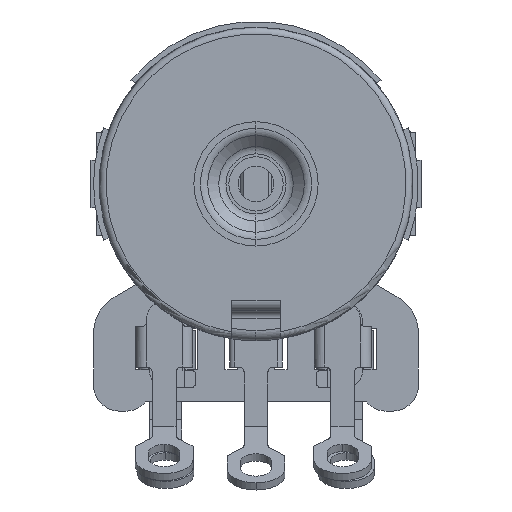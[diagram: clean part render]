
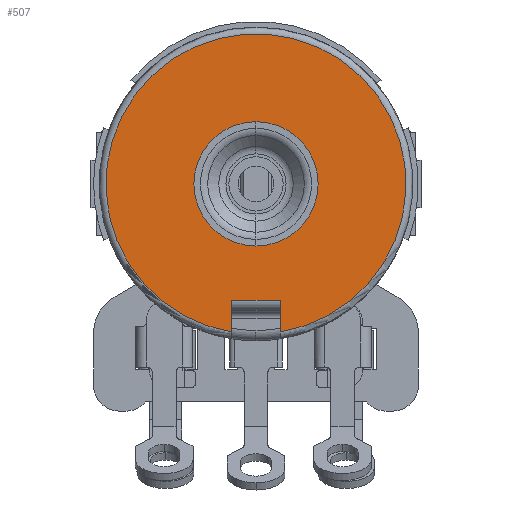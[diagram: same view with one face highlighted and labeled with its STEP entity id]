
A CAD part, front view. The second image highlights one B-rep face of the part: STEP entity #507.
In plain terms, the highlighted planar face has unit normal (0, -1, 0).
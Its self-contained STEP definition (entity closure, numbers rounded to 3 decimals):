
#507 = ADVANCED_FACE ( 'NONE', ( #6481, #33120 ), #6673, .F. ) ;
#675 = DIRECTION ( 'NONE',  ( 0., 0., -1. ) ) ;
#1096 = CARTESIAN_POINT ( 'NONE',  ( -1.194, -0.194, -6.203 ) ) ;
#1228 = VERTEX_POINT ( 'NONE', #7291 ) ;
#1584 = CARTESIAN_POINT ( 'NONE',  ( 0., -0.194, 0. ) ) ;
#1773 = EDGE_CURVE ( 'NONE', #7945, #1228, #16185, .T. ) ;
#2658 = AXIS2_PLACEMENT_3D ( 'NONE', #18645, #36216, #675 ) ;
#4980 = DIRECTION ( 'NONE',  ( 1., 0., 0. ) ) ;
#5128 = EDGE_CURVE ( 'NONE', #16125, #35413, #22178, .T. ) ;
#5718 = CARTESIAN_POINT ( 'NONE',  ( 0., -0.194, 3.044 ) ) ;
#6481 = FACE_BOUND ( 'NONE', #18002, .T. ) ;
#6673 = PLANE ( 'NONE',  #9781 ) ;
#7140 = VERTEX_POINT ( 'NONE', #24211 ) ;
#7291 = CARTESIAN_POINT ( 'NONE',  ( -1.194, -0.194, -7.249 ) ) ;
#7945 = VERTEX_POINT ( 'NONE', #26448 ) ;
#8628 = DIRECTION ( 'NONE',  ( 0., 0., -1. ) ) ;
#9370 = EDGE_LOOP ( 'NONE', ( #30244, #11177, #31389, #29101 ) ) ;
#9781 = AXIS2_PLACEMENT_3D ( 'NONE', #12818, #27318, #10108 ) ;
#10108 = DIRECTION ( 'NONE',  ( 0., 0., 1. ) ) ;
#10426 = CIRCLE ( 'NONE', #31393, 7.347 ) ;
#10484 = EDGE_CURVE ( 'NONE', #17872, #7140, #32363, .T. ) ;
#10868 = DIRECTION ( 'NONE',  ( 0., 0., -1. ) ) ;
#11177 = ORIENTED_EDGE ( 'NONE', *, *, #19383, .T. ) ;
#12261 = CARTESIAN_POINT ( 'NONE',  ( 1.194, -0.194, 0. ) ) ;
#12818 = CARTESIAN_POINT ( 'NONE',  ( -3.044, -0.194, 0. ) ) ;
#13815 = EDGE_CURVE ( 'NONE', #35413, #16125, #19311, .T. ) ;
#14153 = DIRECTION ( 'NONE',  ( 0., -1., 0. ) ) ;
#14964 = DIRECTION ( 'NONE',  ( 0., -1., 0. ) ) ;
#16125 = VERTEX_POINT ( 'NONE', #33378 ) ;
#16185 = LINE ( 'NONE', #1096, #20629 ) ;
#16565 = LINE ( 'NONE', #19830, #34251 ) ;
#17872 = VERTEX_POINT ( 'NONE', #20819 ) ;
#18002 = EDGE_LOOP ( 'NONE', ( #32760, #33979 ) ) ;
#18645 = CARTESIAN_POINT ( 'NONE',  ( 0., -0.194, 0. ) ) ;
#19311 = CIRCLE ( 'NONE', #2658, 3.044 ) ;
#19383 = EDGE_CURVE ( 'NONE', #7945, #17872, #16565, .T. ) ;
#19830 = CARTESIAN_POINT ( 'NONE',  ( -3.044, -0.194, -5.695 ) ) ;
#20629 = VECTOR ( 'NONE', #33567, 1000. ) ;
#20819 = CARTESIAN_POINT ( 'NONE',  ( 1.194, -0.194, -5.695 ) ) ;
#21564 = AXIS2_PLACEMENT_3D ( 'NONE', #1584, #14153, #10868 ) ;
#22178 = CIRCLE ( 'NONE', #21564, 3.044 ) ;
#23298 = DIRECTION ( 'NONE',  ( 0., 0., -1. ) ) ;
#24211 = CARTESIAN_POINT ( 'NONE',  ( 1.194, -0.194, -7.249 ) ) ;
#26448 = CARTESIAN_POINT ( 'NONE',  ( -1.194, -0.194, -5.695 ) ) ;
#27318 = DIRECTION ( 'NONE',  ( 0., 1., 0. ) ) ;
#29101 = ORIENTED_EDGE ( 'NONE', *, *, #35438, .T. ) ;
#30107 = VECTOR ( 'NONE', #8628, 1000. ) ;
#30244 = ORIENTED_EDGE ( 'NONE', *, *, #1773, .F. ) ;
#31389 = ORIENTED_EDGE ( 'NONE', *, *, #10484, .T. ) ;
#31393 = AXIS2_PLACEMENT_3D ( 'NONE', #37943, #14964, #23298 ) ;
#32363 = LINE ( 'NONE', #12261, #30107 ) ;
#32760 = ORIENTED_EDGE ( 'NONE', *, *, #5128, .F. ) ;
#33120 = FACE_OUTER_BOUND ( 'NONE', #9370, .T. ) ;
#33378 = CARTESIAN_POINT ( 'NONE',  ( 0., -0.194, -3.044 ) ) ;
#33567 = DIRECTION ( 'NONE',  ( 0., 0., -1. ) ) ;
#33979 = ORIENTED_EDGE ( 'NONE', *, *, #13815, .F. ) ;
#34251 = VECTOR ( 'NONE', #4980, 1000. ) ;
#35413 = VERTEX_POINT ( 'NONE', #5718 ) ;
#35438 = EDGE_CURVE ( 'NONE', #7140, #1228, #10426, .T. ) ;
#36216 = DIRECTION ( 'NONE',  ( 0., -1., 0. ) ) ;
#37943 = CARTESIAN_POINT ( 'NONE',  ( 0., -0.194, 0. ) ) ;
